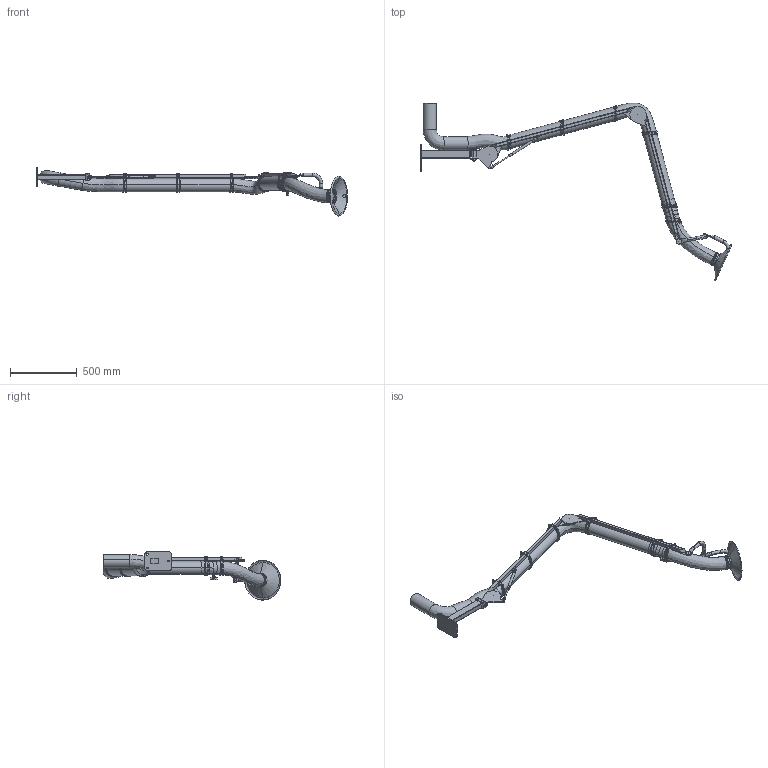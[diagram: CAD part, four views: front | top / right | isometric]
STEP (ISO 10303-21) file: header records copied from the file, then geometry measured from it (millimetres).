
FILE_DESCRIPTION((''),'2;1');
FILE_NAME('PSR_3000-100_D_EXD','2022-10-04T13:20:27',('Tomas Bellgran'),(''),'CREO PARAMETRIC BY PTC INC, 2018260','CREO PARAMETRIC BY PTC INC, 2018260','');
FILE_SCHEMA(('AUTOMOTIVE_DESIGN { 1 0 10303 214 1 1 1 1 }'));
Length unit declared in the file: millimetre
Products named in the file (42): 141558; 141580; 141581; 122701; 141514; 141560; 141582; 141587; 141524; 121391; 131150; 139380; 131151; 131170; 144356; 141589; 134343_AF0; G_P136_WELD-REF; 141590; 122717_LIGHT; 120127_COMPL_LIGHT; 130317; ROD_STAB_8-160-REF; 131095; 130322_AF30; 131145; 139635; 139656; 139614; 139630; 131205; 122291; 122295; 131215; 131219; 131220; 131200; 141624; 121078; 124460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
Assembly tree (59 placements, depth 4):
  PSR_3000-100_D_EXD
    141514
      141558
      141580
      141581
      122701
    141524
      141560
      141582
      141587
    121391  x4
    131150
    131170
      139380
      131151
    144356  x2
    141590
      141589
      134343_AF0
      G_P136_WELD-REF
    122717_LIGHT
    120127_COMPL_LIGHT
    130322_AF30
      130317
      ROD_STAB_8-160-REF
      131095  x2
    131145  x2
    139630
      139635  x3
      139656
      139614
    131200
      131205
      122295
        122291
      131220
        131215
        131219
    141624
    121078
    124460  x6
    107521-11  x6
Bounding box: 2333.14 x 1334.51 x 362.95 mm (x, y, z)
Volume: 29019461.1 mm3; surface area: 1999879 mm2
Topology: 50 solids, 50 shells, 1190 faces, 2840 edges, 1753 vertices
Faces by surface type: plane 436, cylinder 364, bspline 234, torus 68, cone 56, extrusion 17, revolution 13, sphere 2
Entity records: 39747 total; most frequent: CARTESIAN_POINT 13202, DIRECTION 3362, ORIENTED_EDGE 3082, PRESENTATION_STYLE_ASSIGNMENT 2166, STYLED_ITEM 2139, CURVE_STYLE 1561, EDGE_CURVE 1541, AXIS2_PLACEMENT_3D 1331
